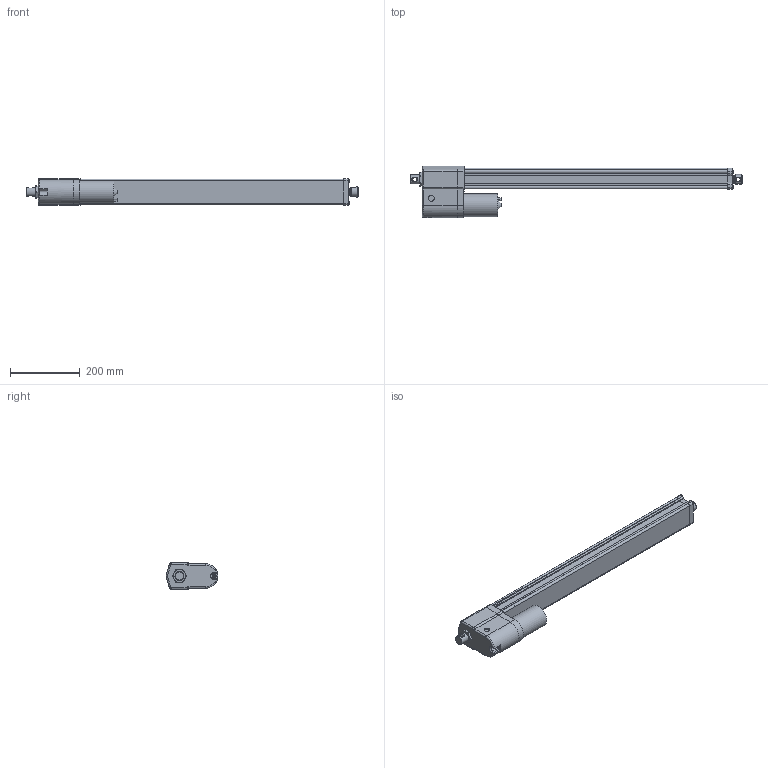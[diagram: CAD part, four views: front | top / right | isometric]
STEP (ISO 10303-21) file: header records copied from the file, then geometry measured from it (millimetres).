
FILE_DESCRIPTION( ( 'STEP AP203' ), '1' );
FILE_NAME( 'p:/temp/worker_522/temp/exporttempdir_6412_695_RQ8EB/format_0/DA24-21B65M60M0NPO-AMM.stp', '2020-04-12T18:24:30', ( 'License CC BY-ND 4.0' ), ( 'CADENAS' ), ' ', 'PARTsolutions', ' ' );
FILE_SCHEMA( ( 'CONFIG_CONTROL_DESIGN' ) );
Length unit declared in the file: millimetre
Products named in the file (8): DA24-21B65M60M0NPO-AMM; _ELECTRAK-LA14-DA24-21B65MM0NPO-60M-EU-REAR; _Electrak-10-EU-RA-D602700; _D602768eu; _ELECTRAK-LA14-DA24--MOTOR; _DA24-21B65M60M0NPOAMMtube; _ELECTRAK-LA14-DA24--60-PLATE; _ELECTRAK-LA14-DA24--6021B65MNPOM-ROD
Assembly tree (7 placements, depth 2):
  DA24-21B65M60M0NPO-AMM
    _ELECTRAK-LA14-DA24-21B65MM0NPO-60M-EU-REAR
    _Electrak-10-EU-RA-D602700
    _D602768eu
    _ELECTRAK-LA14-DA24--MOTOR
    _DA24-21B65M60M0NPOAMMtube
    _ELECTRAK-LA14-DA24--60-PLATE
    _ELECTRAK-LA14-DA24--6021B65MNPOM-ROD
Bounding box: 948.95 x 148 x 76.2 mm (x, y, z)
Volume: 2801339.3 mm3; surface area: 705252.4 mm2
Topology: 7 solids, 8 shells, 378 faces, 942 edges, 611 vertices
Faces by surface type: plane 184, cylinder 131, cone 45, torus 14, bspline 4
Full cylindrical faces by diameter (mm): 4 x2, 4.126 x1, 4.8 x5, 5 x5, 5.6 x4, 7.878 x4, 9.398 x1, 12.2 x2, 16 x1, 16.5 x1, 21.8 x1, 25.2 x1, 25.4 x1, 26.24 x1, 28.5 x1, 28.6 x2, 47.625 x1, 65.3 x1
Entity records: 11834 total; most frequent: CARTESIAN_POINT 2729, DIRECTION 1869, ORIENTED_EDGE 1744, EDGE_CURVE 872, AXIS2_PLACEMENT_3D 702, VERTEX_POINT 602, EDGE_LOOP 485, LINE 465
